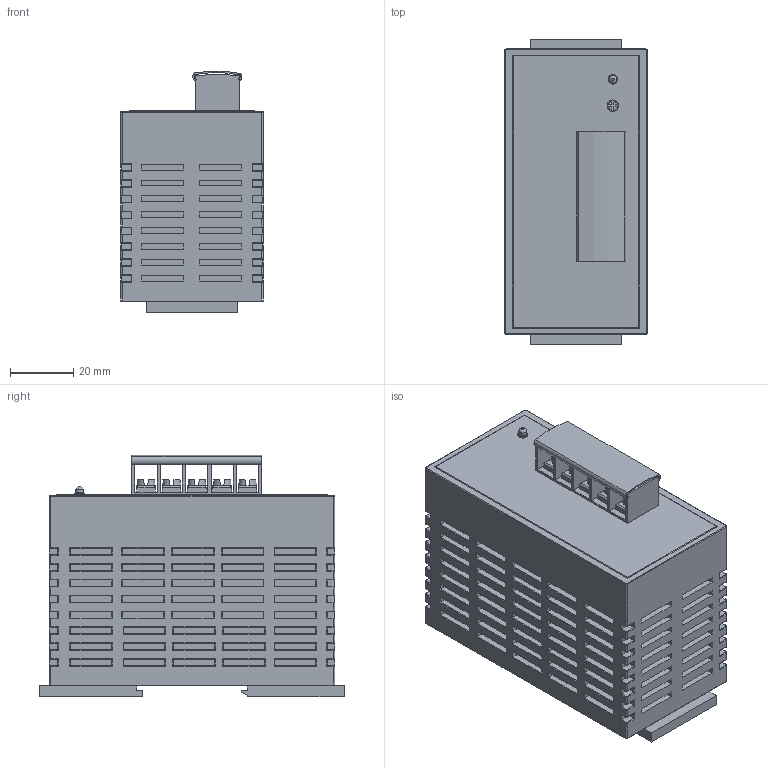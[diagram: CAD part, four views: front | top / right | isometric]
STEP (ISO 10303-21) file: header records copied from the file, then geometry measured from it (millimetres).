
FILE_DESCRIPTION(/* description */ ('STEP AP242','CAx-IF Rec.Pracs.---Representation and Presentation of Product Manufacturing Information (PMI)---4.0---2014-10-13','CAx-IF Rec.Pracs.---3D Tessellated Geometry---0.4---2014-09-14','2;1'),/* implementation_level */ '2;1');
FILE_NAME(/* name */ '686e9e6b2d4e922dd80b0700',/* time_stamp */ '2025-07-09T16:53:00Z',/* author */ (''),/* organization */ (''),/* preprocessor_version */ 'ST-DEVELOPER v20',/* originating_system */ 'ONSHAPE BY PTC INC, 1.200',/* authorisation */ ' ');
FILE_SCHEMA (('AP242_MANAGED_MODEL_BASED_3D_ENGINEERING_MIM_LF { 1 0 10303 442 1 1 4 }'));
Length unit declared in the file: metre
Products named in the file (3): RD1048-XXFS; Terminal Cover
Assembly tree (2 placements, depth 2):
  RD1048-XXFS
    RD1048-XXFS
    Terminal Cover
Bounding box: 45 x 96 x 76.21 mm (x, y, z)
Volume: 242913.2 mm3; surface area: 39992.5 mm2
Topology: 2 solids, 3 shells, 1420 faces, 3385 edges, 2084 vertices
Faces by surface type: plane 795, cylinder 539, torus 75, cone 11
Full cylindrical faces by diameter (mm): 2.4 x1, 3 x1, 3.673 x1
Entity records: 41531 total; most frequent: DIRECTION 7046, CARTESIAN_POINT 6943, ORIENTED_EDGE 6754, EDGE_CURVE 3377, LINE 2514, VECTOR 2514, AXIS2_PLACEMENT_3D 2266, VERTEX_POINT 2083
